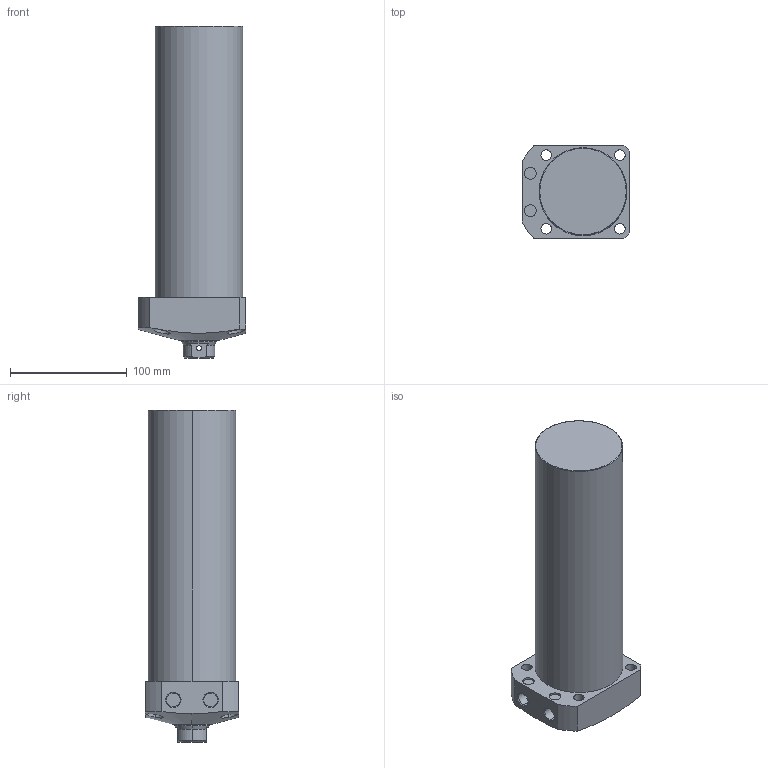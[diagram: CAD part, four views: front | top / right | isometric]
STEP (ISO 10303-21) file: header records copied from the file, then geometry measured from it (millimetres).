
FILE_DESCRIPTION (( 'STEP AP203' ), '1' );
FILE_NAME ('CLL-075CB-195.STEP', '2019-12-24T00:31:27', ( '' ), ( '' ), 'SwSTEP 2.0', 'SolidWorks 2015', '' );
FILE_SCHEMA (( 'CONFIG_CONTROL_DESIGN' ));
Length unit declared in the file: millimetre
Products named in the file (1): CLL-075CB-195
Bounding box: 92 x 80 x 284 mm (x, y, z)
Volume: 1243875.1 mm3; surface area: 87076.8 mm2
Topology: 1 solids, 1 shells, 78 faces, 183 edges, 116 vertices
Faces by surface type: cylinder 39, plane 22, cone 15, torus 2
Entity records: 2862 total; most frequent: CARTESIAN_POINT 955, DIRECTION 396, ORIENTED_EDGE 362, EDGE_CURVE 181, AXIS2_PLACEMENT_3D 164, VERTEX_POINT 116, EDGE_LOOP 101, CIRCLE 85
